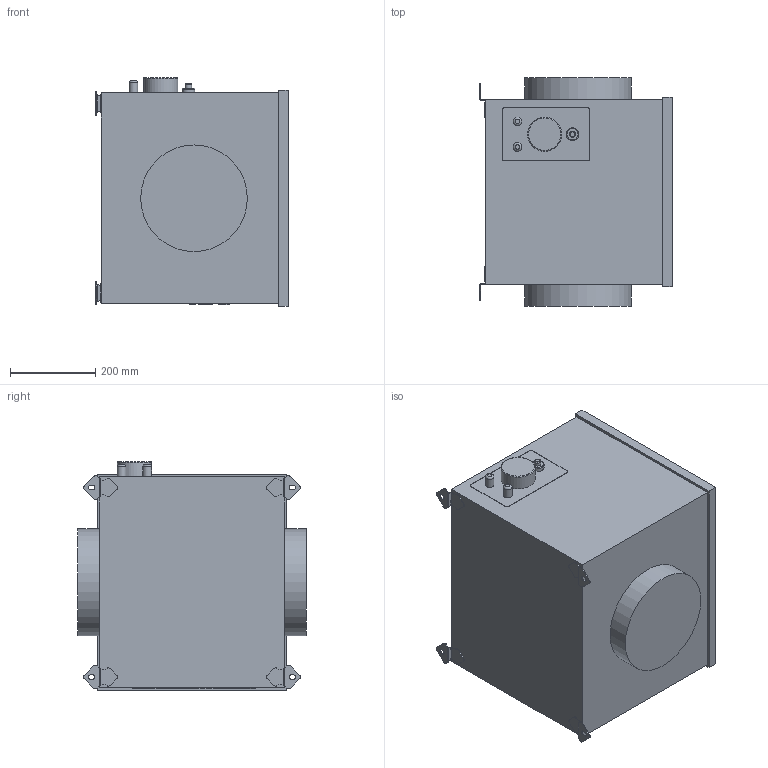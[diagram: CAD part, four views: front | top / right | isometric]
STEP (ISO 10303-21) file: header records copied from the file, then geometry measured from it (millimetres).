
FILE_DESCRIPTION(/* description */ (''),/* implementation_level */ '2;1');
FILE_NAME(/* name */ 'D:\Piotr - Dokumenty\Modele uproszczone\AFB\AFB 250\AFB_250.stp',/* time_stamp */ '2021-03-22T09:10:28+01:00',/* author */ ('Piotr.Nowotniak'),/* organization */ (''),/* preprocessor_version */ 'ST-DEVELOPER v18',/* originating_system */ 'Autodesk Inventor 2020',/* authorisation */ '');
FILE_SCHEMA (('AUTOMOTIVE_DESIGN { 1 0 10303 214 3 1 1 }'));
Length unit declared in the file: millimetre
Products named in the file (1): AFB_250
Bounding box: 450.46 x 535.8 x 536.5 mm (x, y, z)
Volume: 99282180.1 mm3; surface area: 1379357 mm2
Topology: 1 solids, 1 shells, 766 faces, 2116 edges, 1404 vertices
Faces by surface type: bspline 366, plane 312, cylinder 83, torus 5
Full cylindrical faces by diameter (mm): 15 x1, 20.2 x2, 30 x1, 80 x1, 250 x2
Entity records: 30532 total; most frequent: CARTESIAN_POINT 13058, ORIENTED_EDGE 4232, DIRECTION 2347, EDGE_CURVE 2116, VERTEX_POINT 1404, LINE 1223, VECTOR 1223, EDGE_LOOP 826
